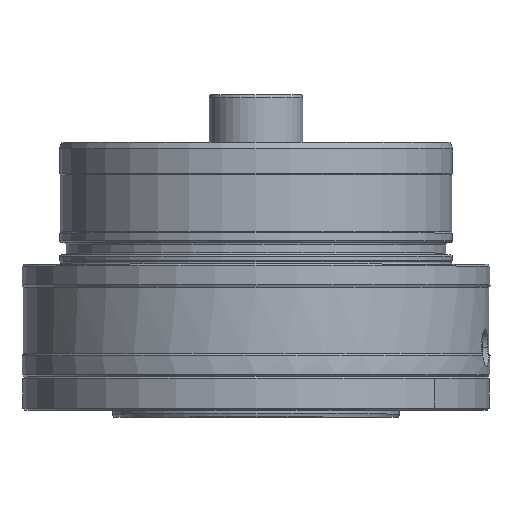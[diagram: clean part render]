
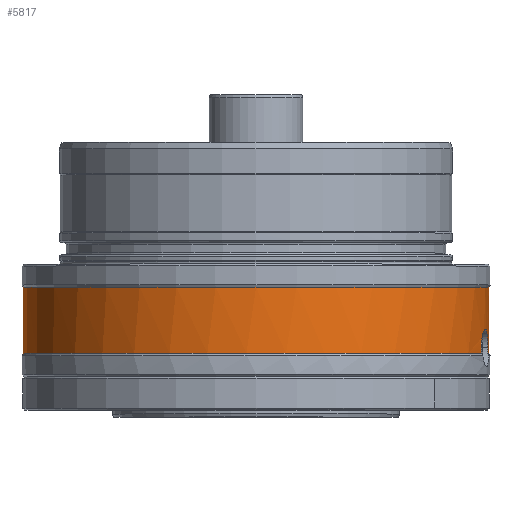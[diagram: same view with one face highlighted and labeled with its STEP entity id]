
A CAD part, top view. The second image highlights one B-rep face of the part: STEP entity #5817.
In plain terms, the highlighted cylindrical face has radius 37.3 mm (diameter 74.6 mm), a partial arc.
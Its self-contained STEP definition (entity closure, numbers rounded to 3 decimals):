
#964=CARTESIAN_POINT('',(0.3,0.,0.));
#965=DIRECTION('',(-1.,0.,0.));
#966=DIRECTION('',(0.,-1.,0.));
#967=AXIS2_PLACEMENT_3D('',#964,#965,#966);
#987=CARTESIAN_POINT('',(-9.4,-37.135,3.502));
#988=CARTESIAN_POINT('',(-9.132,-37.135,3.502));
#989=CARTESIAN_POINT('',(-8.616,-37.129,3.571));
#990=CARTESIAN_POINT('',(-7.881,-37.099,3.874));
#991=CARTESIAN_POINT('',(-7.254,-37.046,4.354));
#992=CARTESIAN_POINT('',(-6.772,-36.968,4.978));
#993=CARTESIAN_POINT('',(-6.469,-36.864,5.704));
#994=CARTESIAN_POINT('',(-6.366,-36.736,6.477));
#995=CARTESIAN_POINT('',(-6.469,-36.592,7.248));
#996=CARTESIAN_POINT('',(-6.771,-36.442,7.964));
#997=CARTESIAN_POINT('',(-7.253,-36.302,8.578));
#998=CARTESIAN_POINT('',(-7.88,-36.187,9.048));
#999=CARTESIAN_POINT('',(-8.616,-36.111,9.343));
#1000=CARTESIAN_POINT('',(-9.132,-36.093,
9.411));
#1001=CARTESIAN_POINT('',(-9.4,-36.093,
9.411));
#1003=CARTESIAN_POINT('',(-9.4,-36.093,
9.411));
#1004=CARTESIAN_POINT('',(-9.502,-36.093,
9.411));
#1005=CARTESIAN_POINT('',(-9.705,-36.096,
9.401));
#1006=CARTESIAN_POINT('',(-10.006,-36.108,
9.355));
#1007=CARTESIAN_POINT('',(-10.203,-36.12,
9.306));
#1008=CARTESIAN_POINT('',(-10.3,-36.128,
9.276));
#1010=DIRECTION('',(-1.,0.,0.));
#1011=VECTOR('',#1010,10.6);
#1012=CARTESIAN_POINT('',(0.3,-37.3,0.));
#1013=LINE('',#1012,#1011);
#1014=CARTESIAN_POINT('',(-10.3,-37.122,
3.64));
#1015=CARTESIAN_POINT('',(-10.203,-37.125,
3.609));
#1016=CARTESIAN_POINT('',(-10.006,-37.13,
3.558));
#1017=CARTESIAN_POINT('',(-9.705,-37.134,
3.512));
#1018=CARTESIAN_POINT('',(-9.502,-37.135,
3.502));
#1019=CARTESIAN_POINT('',(-9.4,-37.135,
3.502));
#1063=CARTESIAN_POINT('',(-10.3,0.,0.));
#1064=DIRECTION('',(1.,0.,0.));
#1065=DIRECTION('',(0.,-0.995,0.098));
#1066=AXIS2_PLACEMENT_3D('',#1063,#1064,#1065);
#1073=CARTESIAN_POINT('',(-10.3,0.,0.));
#1074=DIRECTION('',(1.,0.,0.));
#1075=DIRECTION('',(0.,1.,0.));
#1076=AXIS2_PLACEMENT_3D('',#1073,#1074,#1075);
#1078=CARTESIAN_POINT('',(-10.3,-36.128,
9.276));
#3426=DIRECTION('',(-1.,0.,0.));
#3427=VECTOR('',#3426,10.6);
#3428=CARTESIAN_POINT('',(0.3,37.3,0.));
#3429=LINE('',#3428,#3427);
#4708=VERTEX_POINT('',#1078);
#4709=VERTEX_POINT('',#1003);
#4710=CARTESIAN_POINT('',(-9.4,-37.135,
3.502));
#4711=VERTEX_POINT('',#4710);
#4712=VERTEX_POINT('',#1014);
#4733=CARTESIAN_POINT('',(0.3,-37.3,0.));
#4734=VERTEX_POINT('',#4733);
#4735=CARTESIAN_POINT('',(0.3,37.3,0.));
#4736=VERTEX_POINT('',#4735);
#4741=CARTESIAN_POINT('',(-10.3,-37.3,0.));
#4742=VERTEX_POINT('',#4741);
#4743=CARTESIAN_POINT('',(-10.3,37.3,0.));
#4744=VERTEX_POINT('',#4743);
#5795=CARTESIAN_POINT('',(1.253,0.,0.));
#5796=DIRECTION('',(-1.,0.,0.));
#5797=DIRECTION('',(0.,1.,0.));
#5798=AXIS2_PLACEMENT_3D('',#5795,#5796,#5797);
#5799=CYLINDRICAL_SURFACE('',#5798,37.3);
#5801=ORIENTED_EDGE('',*,*,#5800,.T.);
#5803=ORIENTED_EDGE('',*,*,#5802,.T.);
#5805=ORIENTED_EDGE('',*,*,#5804,.F.);
#5807=ORIENTED_EDGE('',*,*,#5806,.F.);
#5808=ORIENTED_EDGE('',*,*,#5760,.F.);
#5810=ORIENTED_EDGE('',*,*,#5809,.T.);
#5812=ORIENTED_EDGE('',*,*,#5811,.F.);
#5814=ORIENTED_EDGE('',*,*,#5813,.T.);
#5815=EDGE_LOOP('',(#5801,#5803,#5805,#5807,#5808,#5810,#5812,#5814));
#5816=FACE_OUTER_BOUND('',#5815,.F.);
#5817=ADVANCED_FACE('',(#5816),#5799,.T.);
#968=CIRCLE('',#967,37.3);
#1002=B_SPLINE_CURVE_WITH_KNOTS('',3,(#987,#988,#989,#990,#991,#992,#993,#994,
#995,#996,#997,#998,#999,#1000,#1001),.UNSPECIFIED.,.F.,.F.,(4,1,1,1,1,1,1,1,1,
1,1,1,4),(0.,0.083,0.167,0.25,0.333,
0.417,0.5,0.583,0.667,0.75,
0.833,0.917,1.),.UNSPECIFIED.);
#1009=B_SPLINE_CURVE_WITH_KNOTS('',3,(#1003,#1004,#1005,#1006,#1007,#1008),
.UNSPECIFIED.,.F.,.F.,(4,1,1,4),(0.,0.333,0.667,1.),
.UNSPECIFIED.);
#1020=B_SPLINE_CURVE_WITH_KNOTS('',3,(#1014,#1015,#1016,#1017,#1018,#1019),
.UNSPECIFIED.,.F.,.F.,(4,1,1,4),(0.,0.333,0.667,1.),
.UNSPECIFIED.);
#1067=CIRCLE('',#1066,37.3);
#1077=CIRCLE('',#1076,37.3);
#5760=EDGE_CURVE('',#4734,#4736,#968,.T.);
#5800=EDGE_CURVE('',#4711,#4709,#1002,.T.);
#5802=EDGE_CURVE('',#4709,#4708,#1009,.T.);
#5804=EDGE_CURVE('',#4744,#4708,#1077,.T.);
#5806=EDGE_CURVE('',#4736,#4744,#3429,.T.);
#5809=EDGE_CURVE('',#4734,#4742,#1013,.T.);
#5811=EDGE_CURVE('',#4712,#4742,#1067,.T.);
#5813=EDGE_CURVE('',#4712,#4711,#1020,.T.);
